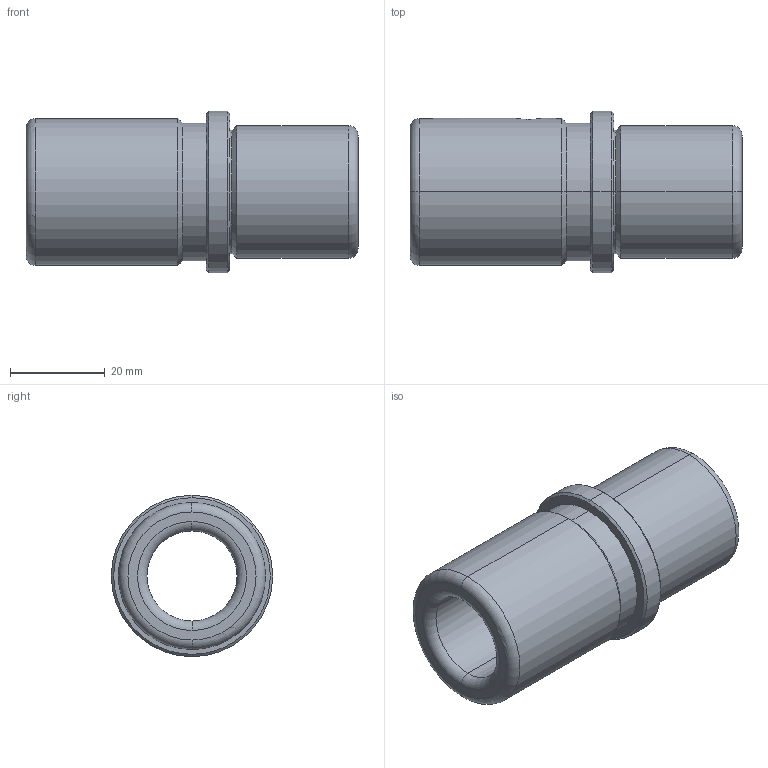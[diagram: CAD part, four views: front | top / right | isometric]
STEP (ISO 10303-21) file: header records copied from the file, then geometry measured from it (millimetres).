
FILE_DESCRIPTION(('CATIA V5 STEP Exchange'),'2;1');
FILE_NAME('C:\Users\Utente\Desktop\IO LAVORO\3D X SITO CF\X SITO\FAMO\FAMO-SF1-D19 x 70.stp','2021-01-06T17:07:05+00:00',('none'),('none'),'CATIA Version 5 Release 20 GA (IN-10)','CATIA V5 STEP AP203','none');
FILE_SCHEMA(('CONFIG_CONTROL_DESIGN'));
Length unit declared in the file: millimetre
Products named in the file (1): FAMO-SF1-D19 x 70
Bounding box: 70 x 34 x 34 mm (x, y, z)
Volume: 28831.5 mm3; surface area: 12101.1 mm2
Topology: 1 solids, 1 shells, 37 faces, 117 edges, 85 vertices
Faces by surface type: cylinder 14, cone 10, torus 8, plane 5
Entity records: 1542 total; most frequent: CARTESIAN_POINT 455, ORIENTED_EDGE 234, DIRECTION 180, AXIS2_PLACEMENT_3D 120, EDGE_CURVE 117, VERTEX_POINT 85, CIRCLE 82, EDGE_LOOP 44
